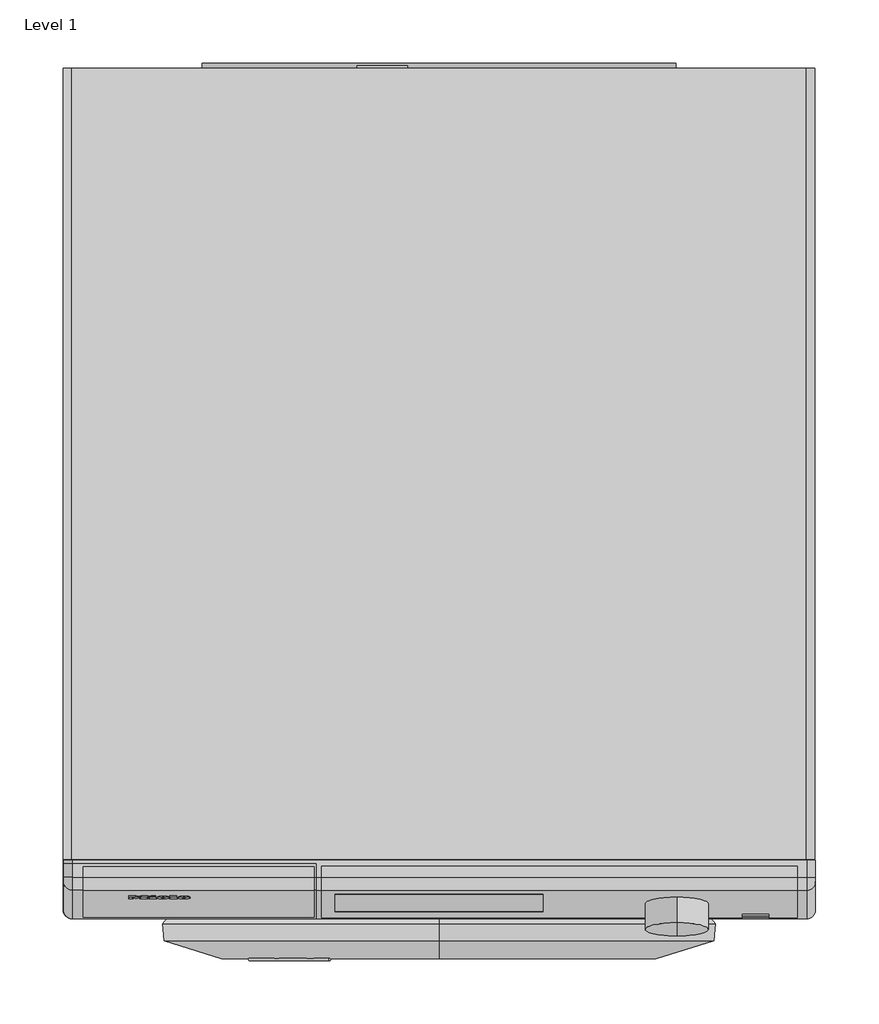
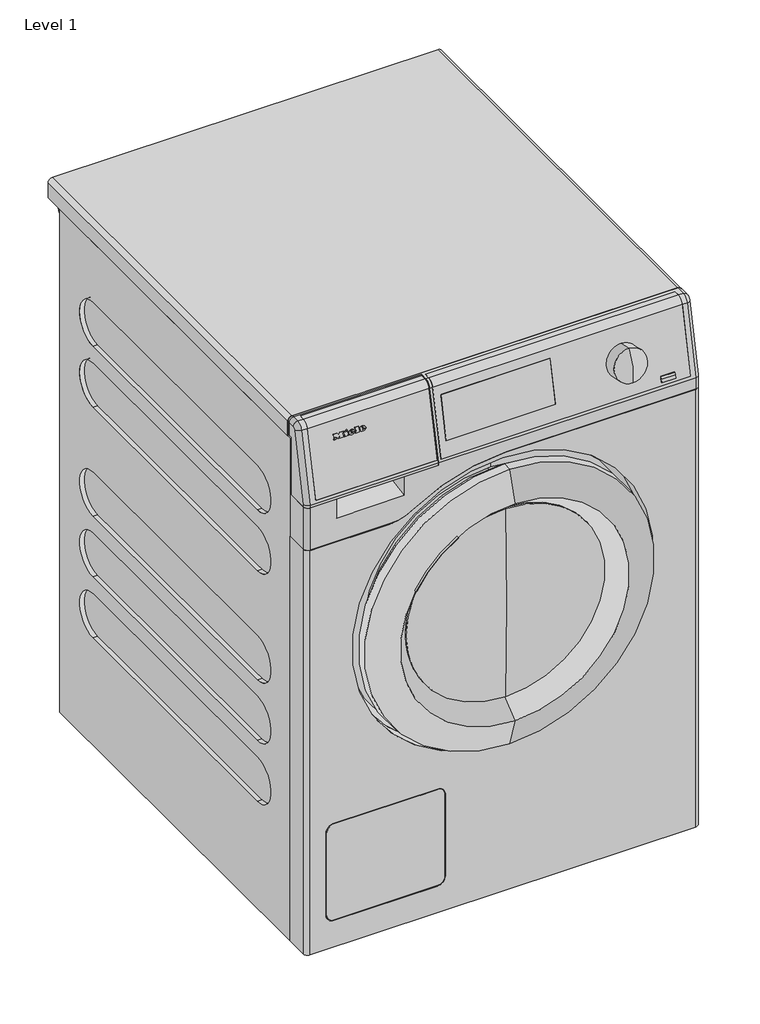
# One storey: 1 proxy.
"""IFC4 building model written with IfcOpenShell, lengths in millimetres."""

from ifc_helpers import new_model, si_unit, origin, place, context, project, spatial, transform, mapped, element, save
from components import specialty_equipment_fb93250b, specialty_equipment_3f033d97, specialty_equipment_5b245b4f

model = new_model("IFC4")

# Units and contexts
model_context = context("Model", 3, world=origin())
ifc_project = project(units=[si_unit("LENGTHUNIT", "METRE", prefix="MILLI")], contexts=[model_context])

# Site, building, storey
site = spatial("IfcSite", under=ifc_project)
building = spatial("IfcBuilding", under=site)
storey = spatial("IfcBuildingStorey", under=building, Name="Level 1", Elevation=0.0)

# Proxy
placement = place(None, origin())
specialty_equipment_shape = specialty_equipment_fb93250b(model_context)
specialty_equipment_2_shape = specialty_equipment_3f033d97(model_context)
specialty_equipment_3_shape = specialty_equipment_5b245b4f(model_context)
element("IfcBuildingElementProxy", 1, Name="11137260_RU_PWM507DV_SST : 51507451_RU_11137260_PWM507DV_SST", ObjectType="11137260_RU_PWM507DV_SST : 51507451_RU_11137260_PWM507DV_SST", at=placement, inside=storey, context=model_context, shape_type="MappedRepresentation", body=[
    mapped(specialty_equipment_shape, transform((0.0, 0.0, 0.0), x_axis=(1.0, 0.0, 0.0), y_axis=(0.0, 1.0, 0.0), z_axis=(0.0, 0.0, 1.0))),
    mapped(specialty_equipment_2_shape, transform((0.0, 0.0, 0.0), x_axis=(1.0, 0.0, 0.0), y_axis=(0.0, 1.0, 0.0), z_axis=(0.0, 0.0, 1.0))),
    mapped(specialty_equipment_3_shape, transform((0.0, 0.0, 0.0), x_axis=(1.0, 0.0, 0.0), y_axis=(0.0, 1.0, 0.0), z_axis=(0.0, 0.0, 1.0))),
])

save(model, "model.ifc")
